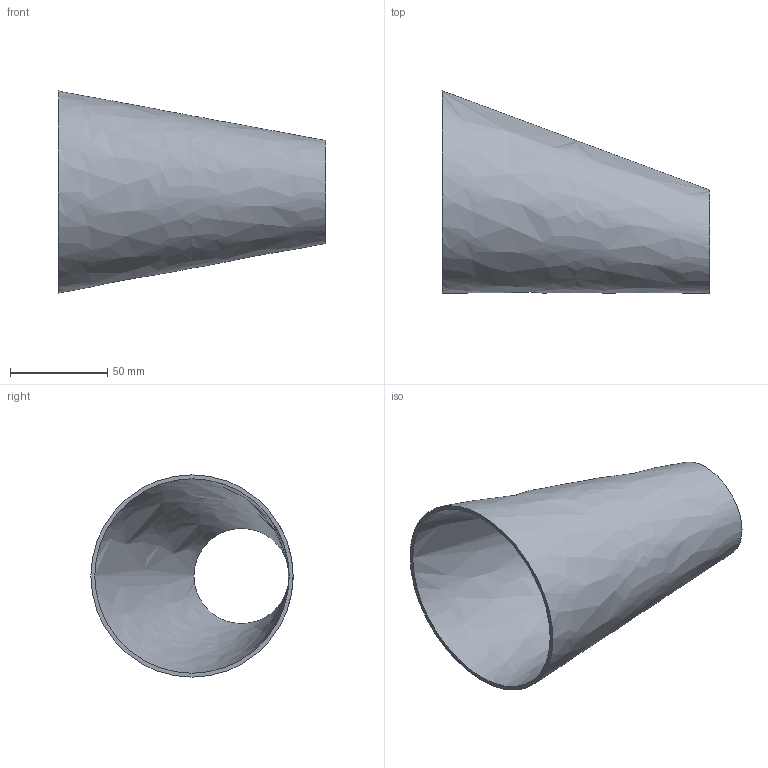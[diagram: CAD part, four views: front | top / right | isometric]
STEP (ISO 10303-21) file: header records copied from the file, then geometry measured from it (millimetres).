
FILE_DESCRIPTION(('FreeCAD Model'),'2;1');
FILE_NAME( '/home/martin/Documents/proyect/accesorios/stp/red-exc_DN100-50.step', '2017-12-31T13:04:36',('Author'),(''), 'Open CASCADE STEP processor 6.8','FreeCAD','Unknown');
FILE_SCHEMA(('AUTOMOTIVE_DESIGN_CC2 { 1 2 10303 214 -1 1 5 4 }'));
Length unit declared in the file: millimetre
Products named in the file (1): red-exc_DN100-50
Bounding box: 137.5 x 104 x 104 mm (x, y, z)
Volume: 66091.3 mm3; surface area: 68716.9 mm2
Topology: 1 solids, 1 shells, 4 faces, 6 edges, 4 vertices
Faces by surface type: bspline 2, plane 2
Entity records: 299 total; most frequent: CARTESIAN_POINT 139, DIRECTION 26, ORIENTED_EDGE 12, PCURVE 12, DEFINITIONAL_REPRESENTATION 12, CIRCLE 8, LINE 8, VECTOR 8
